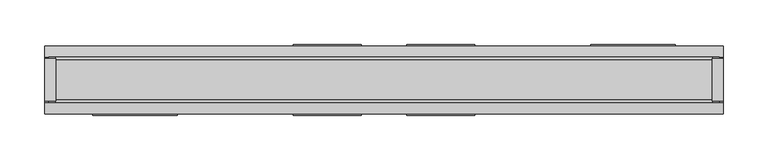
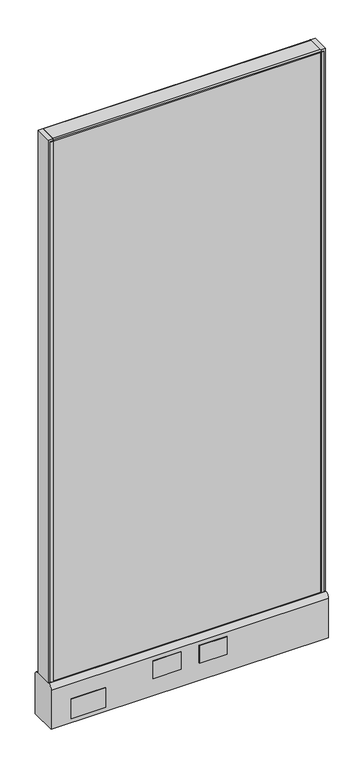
"""IFC4 building model written with IfcOpenShell, lengths in millimetres: furniture geometry."""

from ifc_helpers import new_model, si_unit, point, frame, frame_2d, origin, place, context, project, spatial, polyline, circle_curve, trimmed, segment, composite_curve, outline, extrude, source, transform, mapped, element, save
from ifc_brep_helpers import plane_surface, cylinder_surface, advanced_brep


def furniture_3b64b56a(model_context):
    return source(origin(), model_context, "Body", "SolidModel", [
        extrude(outline(polyline([(-101.6, 39.6875), (-25.4, 39.6875), (-25.4, 38.1), (-101.6, 38.1), (-101.6, 39.6875)])), frame((0.0, 0.0, 60.325), z_axis=(0.0, 0.0, 1.0), x_axis=(1.0, 0.0, 0.0)), (0.0, 0.0, 1.0), 50.8),
        extrude(outline(polyline([(25.4, 39.6875), (101.6, 39.6875), (101.6, 38.1), (25.4, 38.1), (25.4, 39.6875)])), frame((0.0, 0.0, 60.325), z_axis=(0.0, 0.0, 1.0), x_axis=(1.0, 0.0, 0.0)), (0.0, 0.0, 1.0), 50.8),
        extrude(outline(polyline([(-101.6, -38.1), (-25.4, -38.1), (-25.4, -39.6875), (-101.6, -39.6875), (-101.6, -38.1)])), frame((0.0, 0.0, 60.325), z_axis=(0.0, 0.0, 1.0), x_axis=(1.0, 0.0, 0.0)), (0.0, 0.0, 1.0), 50.8),
        extrude(outline(polyline([(25.4, -38.1), (101.6, -38.1), (101.6, -39.6875), (25.4, -39.6875), (25.4, -38.1)])), frame((0.0, 0.0, 60.325), z_axis=(0.0, 0.0, 1.0), x_axis=(1.0, 0.0, 0.0)), (0.0, 0.0, 1.0), 50.8),
        extrude(outline(polyline([(327.025, 38.1), (231.775, 38.1), (231.775, 39.6875), (327.025, 39.6875), (327.025, 38.1)])), frame((0.0, 0.0, 22.225), z_axis=(0.0, 0.0, 1.0), x_axis=(1.0, 0.0, 0.0)), (0.0, 0.0, 1.0), 57.15),
        extrude(outline(polyline([(-231.775, -39.6875), (-327.025, -39.6875), (-327.025, -38.1), (-231.775, -38.1), (-231.775, -39.6875)])), frame((0.0, 0.0, 22.225), z_axis=(0.0, 0.0, 1.0), x_axis=(1.0, 0.0, 0.0)), (0.0, 0.0, 1.0), 57.15),
        advanced_brep(
        [(323.85, 0.0, 0.0), (349.25, 0.0, 0.0), (336.55, 0.0, 0.0), (323.85, 0.0, 4.7625), (349.25, 0.0, 4.7625), (330.2, 0.0, 4.7625), (342.9, 0.0, 4.7625), (330.2, 0.0, 111.125), (342.9, 0.0, 111.125), (336.55, 0.0, 111.125)],
        [
            (0, 1, circle_curve(frame((336.55, 0.0, 0.0), z_axis=(0.0, 0.0, -1.0), x_axis=(1.0, 0.0, 0.0)), 12.7)),
            (1, 2),
            (2, 0),
            (1, 0, circle_curve(frame((336.55, 0.0, 0.0), z_axis=(0.0, 0.0, -1.0), x_axis=(1.0, 0.0, 0.0)), 12.7)),
            (3, 4, circle_curve(frame((336.55, 0.0, 4.7625), z_axis=(0.0, 0.0, -1.0), x_axis=(1.0, 0.0, 0.0)), 12.7)),
            (4, 1),
            (0, 3),
            (4, 3, circle_curve(frame((336.55, 0.0, 4.7625), z_axis=(0.0, 0.0, -1.0), x_axis=(1.0, 0.0, 0.0)), 12.7)),
            (5, 6, circle_curve(frame((336.55, 0.0, 4.7625), z_axis=(0.0, 0.0, -1.0), x_axis=(1.0, 0.0, 0.0)), 6.35)),
            (6, 4),
            (3, 5),
            (6, 5, circle_curve(frame((336.55, 0.0, 4.7625), z_axis=(0.0, 0.0, -1.0), x_axis=(1.0, 0.0, 0.0)), 6.35)),
            (7, 8, circle_curve(frame((336.55, 0.0, 111.125), z_axis=(0.0, 0.0, -1.0), x_axis=(1.0, 0.0, 0.0)), 6.35)),
            (8, 6),
            (5, 7),
            (8, 7, circle_curve(frame((336.55, 0.0, 111.125), z_axis=(0.0, 0.0, -1.0), x_axis=(1.0, 0.0, 0.0)), 6.35)),
            (9, 8),
            (7, 9),
        ],
        [
            plane_surface(frame((336.55, 0.0, 0.0), z_axis=(0.0, 0.0, -1.0), x_axis=(1.0, 0.0, 0.0))),
            cylinder_surface(frame((336.55, 0.0, 114.882153), z_axis=(0.0, 0.0, 1.0), x_axis=(1.0, 0.0, 0.0)), 12.7),
            plane_surface(frame((336.55, 0.0, 4.7625), z_axis=(0.0, 0.0, 1.0), x_axis=(1.0, 0.0, 0.0))),
            cylinder_surface(frame((336.55, 0.0, 114.882153), z_axis=(0.0, 0.0, 1.0), x_axis=(1.0, 0.0, 0.0)), 6.35),
            plane_surface(frame((336.55, 0.0, 111.125), z_axis=(0.0, 0.0, 1.0), x_axis=(1.0, 0.0, 0.0))),
        ],
        [
            (0, [[1, 2, 3]]),
            (0, [[4, -3, -2]]),
            (1, [[5, 6, -1, 7]]),
            (1, [[8, -7, -4, -6]]),
            (2, [[9, 10, -5, 11]]),
            (2, [[12, -11, -8, -10]]),
            (3, [[13, 14, -9, 15]]),
            (3, [[16, -15, -12, -14]]),
            (4, [[17, -13, 18]]),
            (4, [[-18, -16, -17]]),
        ],
    ),
        advanced_brep(
        [(-349.25, 0.0, 4.7625), (-323.85, 0.0, 4.7625), (-323.85, 0.0, 0.0), (-349.25, 0.0, 0.0), (-342.9, 0.0, 4.7625), (-330.2, 0.0, 4.7625), (-342.9, 0.0, 111.125), (-330.2, 0.0, 111.125), (-336.55, 0.0, 111.125), (-336.55, 0.0, 0.0)],
        [
            (0, 1, circle_curve(frame((-336.55, 0.0, 4.7625), z_axis=(0.0, 0.0, -1.0), x_axis=(1.0, 0.0, 0.0)), 12.7)),
            (1, 2),
            (2, 3, circle_curve(frame((-336.55, 0.0, 0.0), z_axis=(0.0, 0.0, 1.0), x_axis=(1.0, 0.0, 0.0)), 12.7)),
            (3, 0),
            (1, 0, circle_curve(frame((-336.55, 0.0, 4.7625), z_axis=(0.0, 0.0, -1.0), x_axis=(1.0, 0.0, 0.0)), 12.7)),
            (3, 2, circle_curve(frame((-336.55, 0.0, 0.0), z_axis=(0.0, 0.0, 1.0), x_axis=(1.0, 0.0, 0.0)), 12.7)),
            (4, 5, circle_curve(frame((-336.55, 0.0, 4.7625), z_axis=(0.0, 0.0, -1.0), x_axis=(1.0, 0.0, 0.0)), 6.35)),
            (5, 1),
            (0, 4),
            (5, 4, circle_curve(frame((-336.55, 0.0, 4.7625), z_axis=(0.0, 0.0, -1.0), x_axis=(1.0, 0.0, 0.0)), 6.35)),
            (6, 7, circle_curve(frame((-336.55, 0.0, 111.125), z_axis=(0.0, 0.0, -1.0), x_axis=(1.0, 0.0, 0.0)), 6.35)),
            (7, 5),
            (4, 6),
            (7, 6, circle_curve(frame((-336.55, 0.0, 111.125), z_axis=(0.0, 0.0, -1.0), x_axis=(1.0, 0.0, 0.0)), 6.35)),
            (8, 7),
            (6, 8),
            (2, 9),
            (9, 3),
        ],
        [
            cylinder_surface(frame((-336.55, 0.0, 123.825), z_axis=(0.0, 0.0, 1.0), x_axis=(1.0, 0.0, 0.0)), 12.7),
            plane_surface(frame((-336.55, 0.0, 4.7625), z_axis=(0.0, 0.0, 1.0), x_axis=(1.0, 0.0, 0.0))),
            cylinder_surface(frame((-336.55, 0.0, 123.825), z_axis=(0.0, 0.0, 1.0), x_axis=(1.0, 0.0, 0.0)), 6.35),
            plane_surface(frame((-336.55, 0.0, 111.125), z_axis=(0.0, 0.0, 1.0), x_axis=(1.0, 0.0, 0.0))),
            plane_surface(frame((-336.55, 0.0, 0.0), z_axis=(0.0, 0.0, -1.0), x_axis=(1.0, 0.0, 0.0))),
        ],
        [
            (0, [[1, 2, 3, 4]]),
            (0, [[5, -4, 6, -2]]),
            (1, [[7, 8, -1, 9]]),
            (1, [[10, -9, -5, -8]]),
            (2, [[11, 12, -7, 13]]),
            (2, [[14, -13, -10, -12]]),
            (3, [[15, -11, 16]]),
            (3, [[-16, -14, -15]]),
            (4, [[-3, 17, 18]]),
            (4, [[-6, -18, -17]]),
        ],
    ),
        extrude(outline(polyline([(-381.0, 23.8125), (-368.3, 23.8125), (-368.3, -23.8125), (-381.0, -23.8125), (-381.0, 23.8125)])), frame((0.0, 0.0, 136.525), z_axis=(0.0, 0.0, 1.0), x_axis=(1.0, 0.0, 0.0)), (0.0, 0.0, 1.0), 1574.8),
        extrude(outline(polyline([(368.3, -23.8125), (368.3, 23.8125), (381.0, 23.8125), (381.0, -23.8125), (368.3, -23.8125)])), frame((0.0, 0.0, 136.525), z_axis=(0.0, 0.0, 1.0), x_axis=(1.0, 0.0, 0.0)), (0.0, 0.0, 1.0), 1574.8),
        extrude(outline(polyline([(-368.3, 25.4), (-368.3, 23.8125), (-376.2375, 23.8125), (-376.2375, 25.4), (-368.3, 25.4)])), frame((0.0, 0.0, 136.525), z_axis=(0.0, 0.0, 1.0), x_axis=(1.0, 0.0, 0.0)), (0.0, 0.0, 1.0), 1568.45),
        extrude(outline(polyline([(-368.3, -25.4), (-376.2375, -25.4), (-376.2375, -23.8125), (-368.3, -23.8125), (-368.3, -25.4)])), frame((0.0, 0.0, 136.525), z_axis=(0.0, 0.0, 1.0), x_axis=(1.0, 0.0, 0.0)), (0.0, 0.0, 1.0), 1568.45),
        extrude(outline(polyline([(376.2375, 23.8125), (368.3, 23.8125), (368.3, 25.4), (376.2375, 25.4), (376.2375, 23.8125)])), frame((0.0, 0.0, 136.525), z_axis=(0.0, 0.0, 1.0), x_axis=(1.0, 0.0, 0.0)), (0.0, 0.0, 1.0), 1568.45),
        extrude(outline(polyline([(368.3, -25.4), (368.3, -23.8125), (376.2375, -23.8125), (376.2375, -25.4), (368.3, -25.4)])), frame((0.0, 0.0, 136.525), z_axis=(0.0, 0.0, 1.0), x_axis=(1.0, 0.0, 0.0)), (0.0, 0.0, 1.0), 1568.45),
        extrude(outline(composite_curve([segment(trimmed(circle_curve(frame_2d((22.225, 1708.15)), 3.175), [point((22.225, 1711.325))], [point((25.4, 1708.15))], False, "CARTESIAN"), True, "CONTINUOUS"), segment(polyline([(25.4, 1708.15), (25.4, 1704.975), (-25.4, 1704.975), (-25.4, 1708.15)]), True, "CONTINUOUS"), segment(trimmed(circle_curve(frame_2d((-22.225, 1708.15)), 3.175), [point((-25.4, 1708.15))], [point((-22.225, 1711.325))], False, "CARTESIAN"), True, "CONTINUOUS"), segment(polyline([(-22.225, 1711.325), (22.225, 1711.325)]), True, "CONTINUOUS")], self_intersect=False)), frame((-368.3, 0.0, 0.0), z_axis=(1.0, 0.0, 0.0), x_axis=(0.0, 1.0, 0.0)), (0.0, 0.0, 1.0), 736.6),
        extrude(outline(composite_curve([segment(trimmed(circle_curve(frame_2d((25.4, 123.825)), 12.7), [point((25.4, 136.525))], [point((38.1, 123.825))], False, "CARTESIAN"), True, "CONTINUOUS"), segment(polyline([(38.1, 123.825), (38.1, 9.525), (-38.1, 9.525), (-38.1, 123.825)]), True, "CONTINUOUS"), segment(trimmed(circle_curve(frame_2d((-25.4, 123.825)), 12.7), [point((-38.1, 123.825))], [point((-25.4, 136.525))], False, "CARTESIAN"), True, "CONTINUOUS"), segment(polyline([(-25.4, 136.525), (25.4, 136.525)]), True, "CONTINUOUS")], self_intersect=False)), frame((-381.0, 0.0, 0.0), z_axis=(1.0, 0.0, 0.0), x_axis=(0.0, 1.0, 0.0)), (0.0, 0.0, 1.0), 762.0),
        extrude(outline(polyline([(368.3, 23.8125), (368.3, -23.8125), (-368.3, -23.8125), (-368.3, 23.8125), (368.3, 23.8125)])), frame((0.0, 0.0, 136.525), z_axis=(0.0, 0.0, 1.0), x_axis=(1.0, 0.0, 0.0)), (0.0, 0.0, 1.0), 1568.45),
    ])


if __name__ == "__main__":
    model = new_model("IFC4")
    model_context = context("Model", 3, world=origin())
    ifc_project = project(units=[si_unit("LENGTHUNIT", "METRE", prefix="MILLI")], contexts=[model_context])
    site = spatial("IfcSite", under=ifc_project)
    building = spatial("IfcBuilding", under=site)
    placement = place(None, origin())
    furniture_shape = furniture_3b64b56a(model_context)
    element("IfcFurniture", 1, ObjectType="HermanMiller_ActionOffice_A1110_Hard-SurfacedPanelStandardBase : 67\"H x 30\"W-G", at=placement, inside=building, context=model_context, shape_type="MappedRepresentation", body=[
        mapped(furniture_shape, transform((0.0, 0.0, 0.0), x_axis=(1.0, 0.0, 0.0), y_axis=(0.0, 1.0, 0.0), z_axis=(0.0, 0.0, 1.0))),
    ])
    save(model, "model.ifc")
